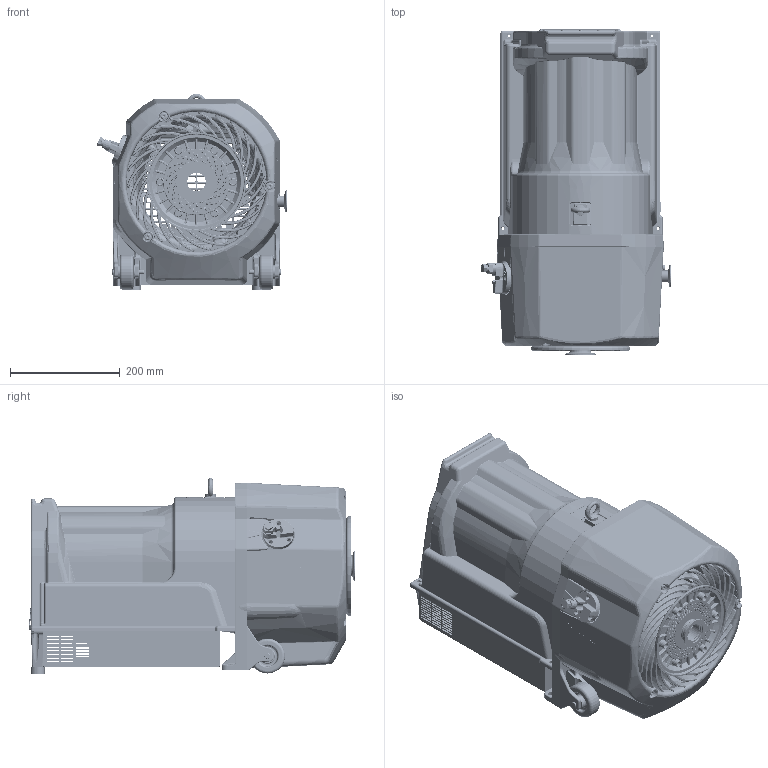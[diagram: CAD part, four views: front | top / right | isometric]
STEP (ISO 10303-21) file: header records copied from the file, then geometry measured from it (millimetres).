
FILE_DESCRIPTION(/* description */ (''),/* implementation_level */ '2;1');
FILE_NAME(/* name */ 'X3835-60135_1.00-HT35 Shell Layout_ Base Model.stp',/* time_stamp */ '2024-05-15T10:10:59-04:00',/* author */ (''),/* organization */ (''),/* preprocessor_version */ 'ST-DEVELOPER v18.102',/* originating_system */ 'SIEMENS PLM Software NX2206.9102',/* authorisation */ '');
FILE_SCHEMA (('AUTOMOTIVE_DESIGN { 1 0 10303 214 3 1 1 1 }'));
Products named in the file (29): 1480-1492_A.00-PIN CLVS SLL 0.313X1.875 ST; 1000132905_1.00-M6x10 Comp limiter- Spirol-281752; 611810025_A.00-EYEBOLT M8 X 1.25 BOSSARD BN268; X3835-42001_1.04-Support Wheels; X3835-43005_4.03-Cast Frame_ Machined_MODEL; N23-AEU-17_1.07-Insert_ Gas Ballast; N22-AAC-26_1.09-Knob_ Gas Ballast_ Plastic_ HT35; 24-AHC-22_1.01-IDP-35 Front Cowl Artwork; X3835-42015_1.03-Rear Finger Guard_ALIGNMENT; X3835-42002_6.07-Rear Cowling; 9135-6286_A.02-FLTR-PWR Line EMI_EMC M 3-POS 250V 20A; 0960-3496_A.00-SW-Rocker DPST 20A 125V; X3835-00011_3.02-VFD Display Panel; 648099055_A.00-RUBBER FOOT_ MFG 425-402 with washer; X3835-20246_1.00-VFD Support; X3835-00009_3.02-VFD Bottom Cover; X3835-00007_3.03-Electronics Box; 642971040_A.00-FILTER_ BREATHER VENT; X3835-42014_1.04-Thermal Shield; X3835-20038_3.06-HT After Cooler; X3835-20183_1.03-Exhaust Fitting_ One Piece; 0515-6155_A.50-SCR SKT-HEAD-Cap HEX M6X1 20 Steel BK; X3835-20232_1.03-Slic Pin_ .313in x 1.875in_MODEL; X3835-60102_2.03-Frame and Wheel Subassembly; X3835-42008_1.15-Knob_ Gas Ballast with Overmolded Insert; X3845-42001_2.07-Front Cowling_ HT45_MODELNX-ARRAGMNTWith compression
 limiters; X3835-42016_1.02-IDP-35 Front Cowling with Artwork; X3835-60133_1.02-Rear Cowling_ With Finger Guard_NX-ARRAGMNTArrangeme
nt 1; X3835-60135_1.00-HT35 Shell Layout_ Base Model
Assembly tree (40 placements, depth 4):
  X3835-60135_1.00-HT35 Shell Layout_ Base Model
    X3835-60133_1.02-Rear Cowling_ With Finger Guard_NX-ARRAGMNTArrangeme
nt 1
      X3835-42002_6.07-Rear Cowling
      X3835-42015_1.03-Rear Finger Guard_ALIGNMENT
    X3835-42016_1.02-IDP-35 Front Cowling with Artwork
      X3845-42001_2.07-Front Cowling_ HT45_MODELNX-ARRAGMNTWith compression
 limiters
        1000132905_1.00-M6x10 Comp limiter- Spirol-281752  x3
      24-AHC-22_1.01-IDP-35 Front Cowl Artwork  x2
    0515-6155_A.50-SCR SKT-HEAD-Cap HEX M6X1 20 Steel BK  x7
    X3835-20183_1.03-Exhaust Fitting_ One Piece
    X3835-20038_3.06-HT After Cooler
    X3835-42014_1.04-Thermal Shield
    X3835-42008_1.15-Knob_ Gas Ballast with Overmolded Insert
      N22-AAC-26_1.09-Knob_ Gas Ballast_ Plastic_ HT35
      N23-AEU-17_1.07-Insert_ Gas Ballast
    642971040_A.00-FILTER_ BREATHER VENT
    X3835-60102_2.03-Frame and Wheel Subassembly
      X3835-43005_4.03-Cast Frame_ Machined_MODEL
      X3835-42001_1.04-Support Wheels  x2
      611810025_A.00-EYEBOLT M8 X 1.25 BOSSARD BN268
      X3835-20232_1.03-Slic Pin_ .313in x 1.875in_MODEL  x2
        1480-1492_A.00-PIN CLVS SLL 0.313X1.875 ST
    X3835-00007_3.03-Electronics Box
    X3835-00009_3.02-VFD Bottom Cover
    X3835-20246_1.00-VFD Support
    648099055_A.00-RUBBER FOOT_ MFG 425-402 with washer  x2
    X3835-00011_3.02-VFD Display Panel
    0960-3496_A.00-SW-Rocker DPST 20A 125V
    9135-6286_A.02-FLTR-PWR Line EMI_EMC M 3-POS 250V 20A
Bounding box: 346.44 x 594.62 x 357.51 mm (x, y, z)
Volume: 4684138.9 mm3; surface area: 2379603.1 mm2
Topology: 108 solids, 109 shells, 21338 faces, 51090 edges, 29421 vertices
Faces by surface type: bspline 7127, cylinder 5170, plane 4583, torus 2145, cone 1852, sphere 368, extrusion 92, revolution 1
Full cylindrical faces by diameter (mm): 0.418 x6, 0.42 x10, 0.63 x16, 0.908 x4, 0.91 x12, 1 x4, 1.284 x14, 1.286 x2, 1.5 x4, 2.459 x2, 2.565 x1, 3 x7, 3.2 x6, 3.3 x3, 3.5 x2, 3.69 x2, 4 x4, 4.039 x2, 4.1 x1, 4.19 x2, 4.22 x2, 5 x6, 5.2 x1, 5.512 x6, 5.664 x2, 5.9 x2, 6 x1, 6.3 x2, 6.35 x2, 6.6 x10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
Entity records: 777315 total; most frequent: CARTESIAN_POINT 315923, ORIENTED_EDGE 96624, DIRECTION 84871, EDGE_CURVE 48312, AXIS2_PLACEMENT_3D 34270, VERTEX_POINT 28330, EDGE_LOOP 22685, ADVANCED_FACE 20825
